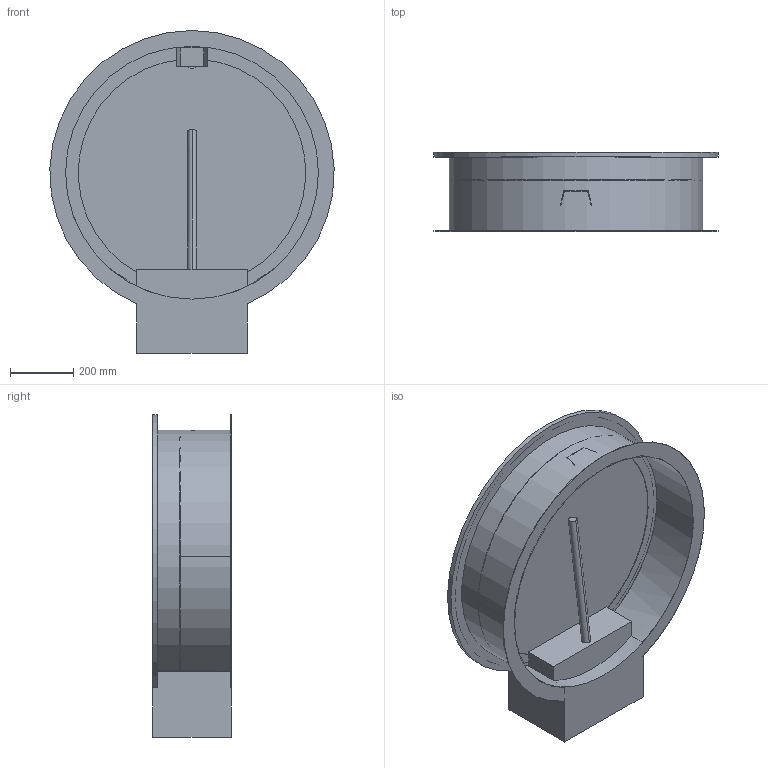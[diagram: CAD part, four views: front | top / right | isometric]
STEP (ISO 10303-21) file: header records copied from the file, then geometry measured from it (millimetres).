
FILE_DESCRIPTION((''),'2;1');
FILE_NAME('52150530','2023-11-14T13:18:10',('wep'),('HUBER SE'),'CREO PARAMETRIC BY PTC INC, 2022162','CREO PARAMETRIC BY PTC INC, 2022162','');
FILE_SCHEMA(('AUTOMOTIVE_DESIGN { 1 0 10303 214 1 1 1 1 }'));
Length unit declared in the file: millimetre
Products named in the file (1): 52150530
Bounding box: 899.64 x 250 x 1021.91 mm (x, y, z)
Volume: 63042545.1 mm3; surface area: 3382783.1 mm2
Topology: 1 solids, 1 shells, 54 faces, 132 edges, 88 vertices
Faces by surface type: plane 32, cylinder 22
Entity records: 2265 total; most frequent: CARTESIAN_POINT 328, DIRECTION 282, ORIENTED_EDGE 264, EDGE_CURVE 132, COLOUR_RGB 106, AXIS2_PLACEMENT_3D 104, VERTEX_POINT 88, PROPERTY_DEFINITION 77
